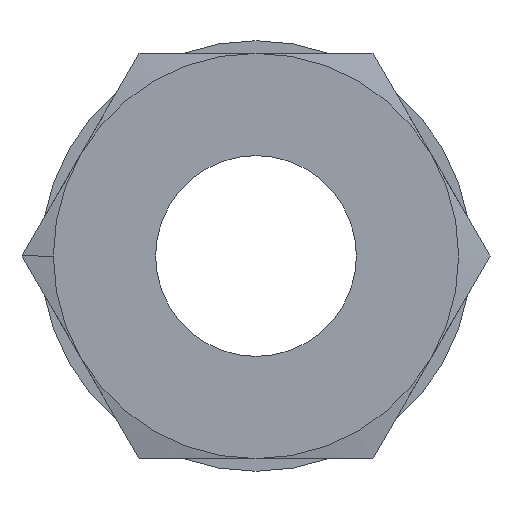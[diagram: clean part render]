
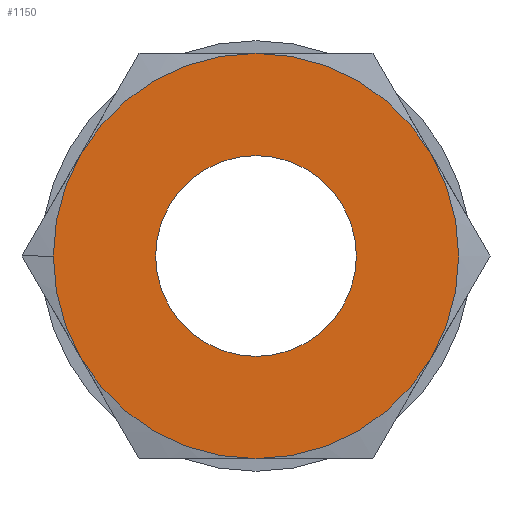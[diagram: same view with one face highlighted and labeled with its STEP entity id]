
A CAD part, left-side view. The second image highlights one B-rep face of the part: STEP entity #1150.
In plain terms, the highlighted planar face has unit normal (-1, 0, 0).
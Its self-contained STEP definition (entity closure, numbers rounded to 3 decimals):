
#20 = DIRECTION ( 'NONE',  ( 1., 0., 0. ) ) ;
#29 = CARTESIAN_POINT ( 'NONE',  ( 0., -10.392, -6. ) ) ;
#30 = CIRCLE ( 'NONE', #1025, 12. ) ;
#31 = CARTESIAN_POINT ( 'NONE',  ( 0., 10.392, -6. ) ) ;
#75 = EDGE_LOOP ( 'NONE', ( #1119, #540, #852, #548, #875, #458, #744 ) ) ;
#77 = CARTESIAN_POINT ( 'NONE',  ( 0., 12., 0. ) ) ;
#85 = CARTESIAN_POINT ( 'NONE',  ( 0., 0., 5.944 ) ) ;
#109 = DIRECTION ( 'NONE',  ( 1., 0., 0. ) ) ;
#117 = EDGE_CURVE ( 'NONE', #676, #539, #1269, .T. ) ;
#127 = DIRECTION ( 'NONE',  ( 0., 0., -1. ) ) ;
#138 = CIRCLE ( 'NONE', #1053, 12. ) ;
#153 = CARTESIAN_POINT ( 'NONE',  ( 0., 0., 0. ) ) ;
#154 = VERTEX_POINT ( 'NONE', #85 ) ;
#160 = EDGE_CURVE ( 'NONE', #1180, #1168, #1266, .T. ) ;
#173 = AXIS2_PLACEMENT_3D ( 'NONE', #521, #1186, #637 ) ;
#178 = AXIS2_PLACEMENT_3D ( 'NONE', #479, #384, #482 ) ;
#181 = EDGE_CURVE ( 'NONE', #1168, #539, #138, .T. ) ;
#190 = CARTESIAN_POINT ( 'NONE',  ( 0., -10.392, 6. ) ) ;
#205 = ORIENTED_EDGE ( 'NONE', *, *, #283, .F. ) ;
#207 = DIRECTION ( 'NONE',  ( 1., 0., 0. ) ) ;
#259 = DIRECTION ( 'NONE',  ( 0., 0., -1. ) ) ;
#280 = VERTEX_POINT ( 'NONE', #29 ) ;
#283 = EDGE_CURVE ( 'NONE', #1087, #154, #1348, .T. ) ;
#289 = DIRECTION ( 'NONE',  ( 0., 0., -1. ) ) ;
#319 = DIRECTION ( 'NONE',  ( 1., 0., 0. ) ) ;
#369 = DIRECTION ( 'NONE',  ( 0., 0., -1. ) ) ;
#384 = DIRECTION ( 'NONE',  ( -1., 0., 0. ) ) ;
#396 = EDGE_CURVE ( 'NONE', #280, #427, #948, .T. ) ;
#422 = CARTESIAN_POINT ( 'NONE',  ( 0., 0., 12. ) ) ;
#427 = VERTEX_POINT ( 'NONE', #896 ) ;
#435 = CARTESIAN_POINT ( 'NONE',  ( 0., 0., -5.944 ) ) ;
#445 = EDGE_CURVE ( 'NONE', #676, #280, #30, .T. ) ;
#458 = ORIENTED_EDGE ( 'NONE', *, *, #160, .F. ) ;
#477 = DIRECTION ( 'NONE',  ( 0., 0., -1. ) ) ;
#478 = AXIS2_PLACEMENT_3D ( 'NONE', #1042, #802, #259 ) ;
#479 = CARTESIAN_POINT ( 'NONE',  ( 0., 0., 0. ) ) ;
#482 = DIRECTION ( 'NONE',  ( 0., 0., 1. ) ) ;
#483 = FACE_OUTER_BOUND ( 'NONE', #75, .T. ) ;
#494 = CARTESIAN_POINT ( 'NONE',  ( 0., 0., 0. ) ) ;
#521 = CARTESIAN_POINT ( 'NONE',  ( 0., 0., 0. ) ) ;
#539 = VERTEX_POINT ( 'NONE', #422 ) ;
#540 = ORIENTED_EDGE ( 'NONE', *, *, #396, .F. ) ;
#548 = ORIENTED_EDGE ( 'NONE', *, *, #117, .T. ) ;
#637 = DIRECTION ( 'NONE',  ( 0., -1., 0. ) ) ;
#640 = DIRECTION ( 'NONE',  ( 0., 0., -1. ) ) ;
#648 = FACE_BOUND ( 'NONE', #937, .T. ) ;
#676 = VERTEX_POINT ( 'NONE', #190 ) ;
#734 = CIRCLE ( 'NONE', #478, 12. ) ;
#744 = ORIENTED_EDGE ( 'NONE', *, *, #1147, .F. ) ;
#802 = DIRECTION ( 'NONE',  ( 1., 0., 0. ) ) ;
#828 = ORIENTED_EDGE ( 'NONE', *, *, #888, .F. ) ;
#836 = PLANE ( 'NONE',  #1068 ) ;
#852 = ORIENTED_EDGE ( 'NONE', *, *, #445, .F. ) ;
#863 = DIRECTION ( 'NONE',  ( 1., 0., 0. ) ) ;
#875 = ORIENTED_EDGE ( 'NONE', *, *, #181, .F. ) ;
#879 = DIRECTION ( 'NONE',  ( 1., 0., 0. ) ) ;
#888 = EDGE_CURVE ( 'NONE', #154, #1087, #1370, .T. ) ;
#896 = CARTESIAN_POINT ( 'NONE',  ( 0., 0., -12. ) ) ;
#911 = DIRECTION ( 'NONE',  ( -1., 0., 0. ) ) ;
#937 = EDGE_LOOP ( 'NONE', ( #828, #205 ) ) ;
#944 = VERTEX_POINT ( 'NONE', #31 ) ;
#948 = CIRCLE ( 'NONE', #1023, 12. ) ;
#949 = CARTESIAN_POINT ( 'NONE',  ( 0., 0., 0. ) ) ;
#1011 = CIRCLE ( 'NONE', #1037, 12. ) ;
#1023 = AXIS2_PLACEMENT_3D ( 'NONE', #1254, #319, #1386 ) ;
#1025 = AXIS2_PLACEMENT_3D ( 'NONE', #1091, #863, #127 ) ;
#1037 = AXIS2_PLACEMENT_3D ( 'NONE', #153, #207, #640 ) ;
#1042 = CARTESIAN_POINT ( 'NONE',  ( 0., 0., 0. ) ) ;
#1053 = AXIS2_PLACEMENT_3D ( 'NONE', #494, #109, #477 ) ;
#1068 = AXIS2_PLACEMENT_3D ( 'NONE', #1152, #879, #369 ) ;
#1087 = VERTEX_POINT ( 'NONE', #435 ) ;
#1091 = CARTESIAN_POINT ( 'NONE',  ( 0., 0., 0. ) ) ;
#1093 = CARTESIAN_POINT ( 'NONE',  ( 0., 10.392, 6. ) ) ;
#1119 = ORIENTED_EDGE ( 'NONE', *, *, #1295, .F. ) ;
#1147 = EDGE_CURVE ( 'NONE', #944, #1180, #734, .T. ) ;
#1150 = ADVANCED_FACE ( 'NONE', ( #648, #483 ), #836, .F. ) ;
#1152 = CARTESIAN_POINT ( 'NONE',  ( 0., 0., 0. ) ) ;
#1162 = AXIS2_PLACEMENT_3D ( 'NONE', #1402, #20, #289 ) ;
#1168 = VERTEX_POINT ( 'NONE', #1093 ) ;
#1180 = VERTEX_POINT ( 'NONE', #77 ) ;
#1186 = DIRECTION ( 'NONE',  ( -1., 0., 0. ) ) ;
#1254 = CARTESIAN_POINT ( 'NONE',  ( 0., 0., 0. ) ) ;
#1266 = CIRCLE ( 'NONE', #1162, 12. ) ;
#1269 = CIRCLE ( 'NONE', #173, 12. ) ;
#1295 = EDGE_CURVE ( 'NONE', #427, #944, #1011, .T. ) ;
#1315 = DIRECTION ( 'NONE',  ( 0., 0., 1. ) ) ;
#1348 = CIRCLE ( 'NONE', #178, 5.944 ) ;
#1370 = CIRCLE ( 'NONE', #1396, 5.944 ) ;
#1386 = DIRECTION ( 'NONE',  ( 0., 0., -1. ) ) ;
#1396 = AXIS2_PLACEMENT_3D ( 'NONE', #949, #911, #1315 ) ;
#1402 = CARTESIAN_POINT ( 'NONE',  ( 0., 0., 0. ) ) ;
